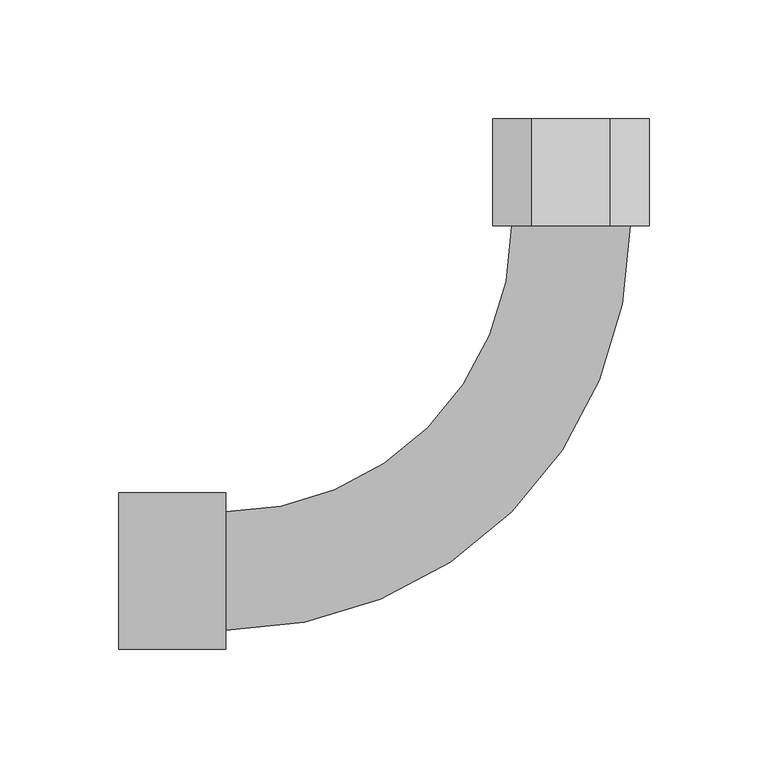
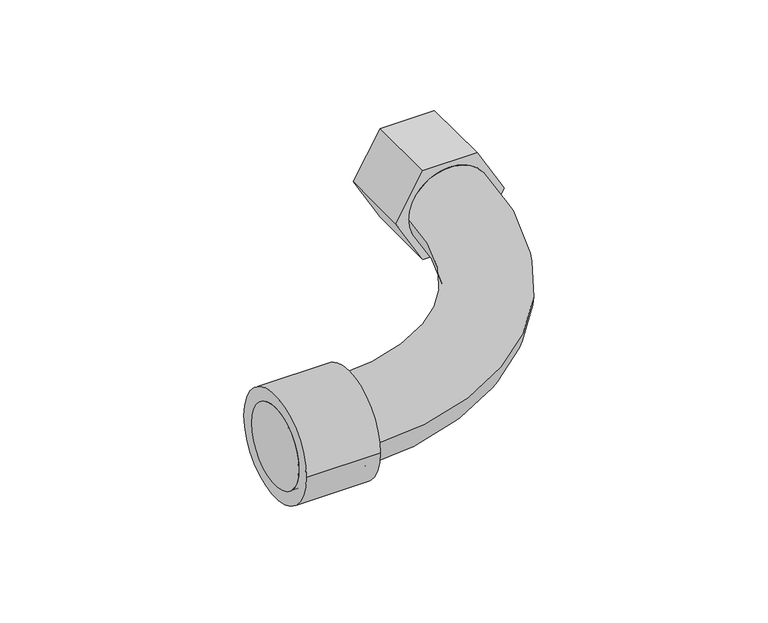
"""IFC4 building model written with IfcOpenShell, lengths in millimetres: cable carrier fitting geometry, Муфта гибкая труба-коробка CXS : Муфта гибкая труба-коробка CXS."""

from ifc_helpers import new_model, si_unit, point, frame, origin, origin_2d, place, context, project, spatial, polyline, circle_curve, ellipse_curve, trimmed, segment, composite_curve, outline, extrude, source, transform, mapped, element, save
from ifc_brep_helpers import plane_surface, cylinder_surface, revolved_surface, advanced_brep


def cable_carrier_fitting_5bff6149(model_context):
    return source(origin(), model_context, "Body", "SolidModel", [
        advanced_brep(
        [(-190.4746, -24.9936, 0.0), (-190.4746, 24.9936, 0.0), (-145.4912, -24.9936, 0.0), (-145.4912, 24.9936, 0.0), (-24.9936, 145.4912, 0.0), (24.9936, 145.4912, 0.0), (24.9936, 190.4746, 0.0), (-24.9936, 190.4746, 0.0)],
        [
            (0, 1, circle_curve(frame((-190.4746, 0.0, 0.0), z_axis=(-1.0, 0.0, 0.0), x_axis=(0.0, 1.0, 0.0)), 24.9936)),
            (1, 0, circle_curve(frame((-190.4746, 0.0, 0.0), z_axis=(-1.0, 0.0, 0.0), x_axis=(0.0, 1.0, 0.0)), 24.9936)),
            (0, 2),
            (2, 3, circle_curve(frame((-145.4912, 0.0, 0.0), z_axis=(-1.0, 0.0, 0.0), x_axis=(0.0, 1.0, 0.0)), 24.9936)),
            (3, 1),
            (3, 2, circle_curve(frame((-145.4912, 0.0, 0.0), z_axis=(-1.0, 0.0, 0.0), x_axis=(0.0, 1.0, 0.0)), 24.9936)),
            (4, 3, circle_curve(frame((-145.4912, 145.4912, 0.0), z_axis=(0.0, 0.0, -1.0), x_axis=(0.0, -1.0, 0.0)), 120.4976)),
            (2, 5, circle_curve(frame((-145.4912, 145.4912, 0.0), z_axis=(0.0, 0.0, 1.0), x_axis=(0.0, -1.0, 0.0)), 170.4848)),
            (5, 4, circle_curve(frame((0.0, 145.4912, 0.0), z_axis=(0.0, -1.0, 0.0), x_axis=(-1.0, 0.0, 0.0)), 24.9936)),
            (4, 5, circle_curve(frame((0.0, 145.4912, 0.0), z_axis=(0.0, -1.0, 0.0), x_axis=(-1.0, 0.0, 0.0)), 24.9936)),
            (6, 7, circle_curve(frame((0.0, 190.4746, 0.0), z_axis=(0.0, 1.0, 0.0), x_axis=(-1.0, 0.0, 0.0)), 24.9936)),
            (7, 6, circle_curve(frame((0.0, 190.4746, 0.0), z_axis=(0.0, 1.0, 0.0), x_axis=(-1.0, 0.0, 0.0)), 24.9936)),
            (5, 6),
            (7, 4),
        ],
        [
            plane_surface(frame((-190.4746, 0.0, 0.0), z_axis=(-1.0, 0.0, 0.0), x_axis=(0.0, 0.0, 1.0))),
            cylinder_surface(frame((-190.4746, 0.0, 0.0), z_axis=(-1.0, 0.0, 0.0), x_axis=(0.0, 1.0, 0.0)), 24.9936),
            revolved_surface(trimmed(ellipse_curve(frame((-145.4912, 0.0, 0.0), z_axis=(-1.0, 0.0, 0.0), x_axis=(0.0, 1.0, 0.0)), 24.9936, 24.9936), [point((-145.4912, -24.9936, 0.0))], [point((-145.4912, 24.9936, 0.0))], True, "CARTESIAN"), (-145.4912, 145.4912, 0.0), (0.0, 0.0, 1.0)),
            revolved_surface(trimmed(ellipse_curve(frame((-145.4912, 0.0, 0.0), z_axis=(-1.0, 0.0, 0.0), x_axis=(0.0, 1.0, 0.0)), 24.9936, 24.9936), [point((-145.4912, 24.9936, 0.0))], [point((-145.4912, -24.9936, 0.0))], True, "CARTESIAN"), (-145.4912, 145.4912, 0.0), (0.0, 0.0, 1.0)),
            plane_surface(frame((0.0, 190.4746, 0.0), z_axis=(0.0, 1.0, 0.0), x_axis=(0.0, 0.0, 1.0))),
            cylinder_surface(frame((0.0, 145.4912, 0.0), z_axis=(0.0, -1.0, 0.0), x_axis=(-1.0, 0.0, 0.0)), 24.9936),
        ],
        [
            (0, [[1, 2]]),
            (1, [[-1, 3, 4, 5]]),
            (1, [[-2, -5, 6, -3]]),
            (2, [[7, -4, 8, 9]]),
            (3, [[-8, -6, -7, 10]]),
            (4, [[11, 12]]),
            (5, [[-9, 13, -12, 14]]),
            (5, [[-10, -14, -11, -13]]),
        ],
    ),
        extrude(outline(composite_curve([segment(trimmed(circle_curve(origin_2d(), 33.0), [point((-33.0, 0.0))], [point((33.0, 0.0))], False, "CARTESIAN"), True, "CONTINUOUS"), segment(trimmed(circle_curve(origin_2d(), 33.0), [point((33.0, 0.0))], [point((-33.0, 0.0))], False, "CARTESIAN"), True, "CONTINUOUS")], self_intersect=False)), frame((-190.4746, 0.0, 0.0), z_axis=(1.0, 0.0, 0.0), x_axis=(0.0, 1.0, 0.0)), (0.0, 0.0, 1.0), 44.9834),
        extrude(outline(polyline([(-28.5788383, 16.5), (0.0, 33.0), (28.5788383, 16.5), (28.5788383, -16.5), (0.0, -33.0), (-28.5788383, -16.5), (-28.5788383, 16.5)])), frame((0.0, 145.4912, 0.0), z_axis=(0.0, 1.0, 0.0), x_axis=(0.0, 0.0, 1.0)), (0.0, 0.0, 1.0), 44.9834),
    ])


if __name__ == "__main__":
    model = new_model("IFC4")
    model_context = context("Model", 3, world=origin())
    ifc_project = project(units=[si_unit("LENGTHUNIT", "METRE", prefix="MILLI")], contexts=[model_context])
    site = spatial("IfcSite", under=ifc_project)
    building = spatial("IfcBuilding", under=site)
    placement = place(None, origin())
    cable_carrier_fitting_shape = cable_carrier_fitting_5bff6149(model_context)
    element("IfcCableCarrierFitting", 1, ObjectType="Муфта гибкая труба-коробка CXS : Муфта гибкая труба-коробка CXS", at=placement, inside=building, context=model_context, shape_type="MappedRepresentation", body=[
        mapped(cable_carrier_fitting_shape, transform((0.0, 0.0, 0.0), x_axis=(1.0, 0.0, 0.0), y_axis=(0.0, 1.0, 0.0), z_axis=(0.0, 0.0, 1.0))),
    ])
    save(model, "model.ifc")
